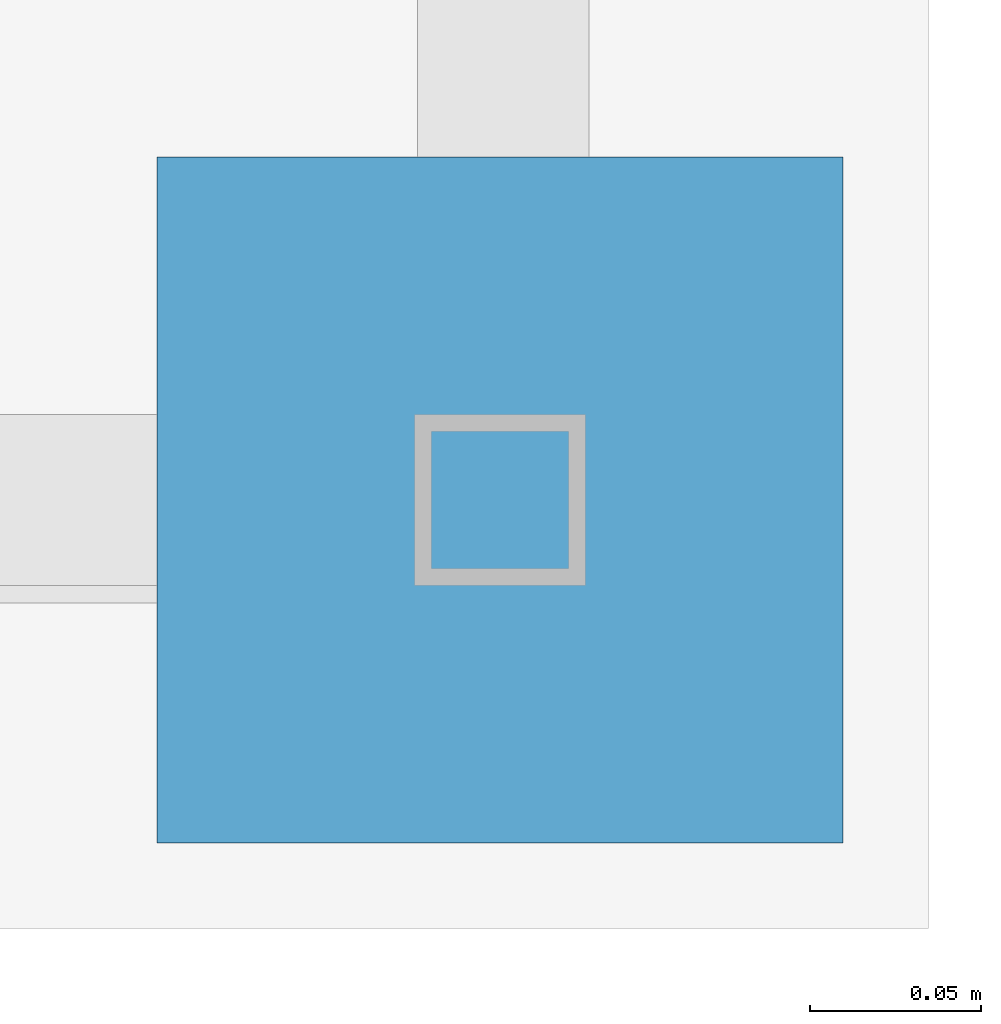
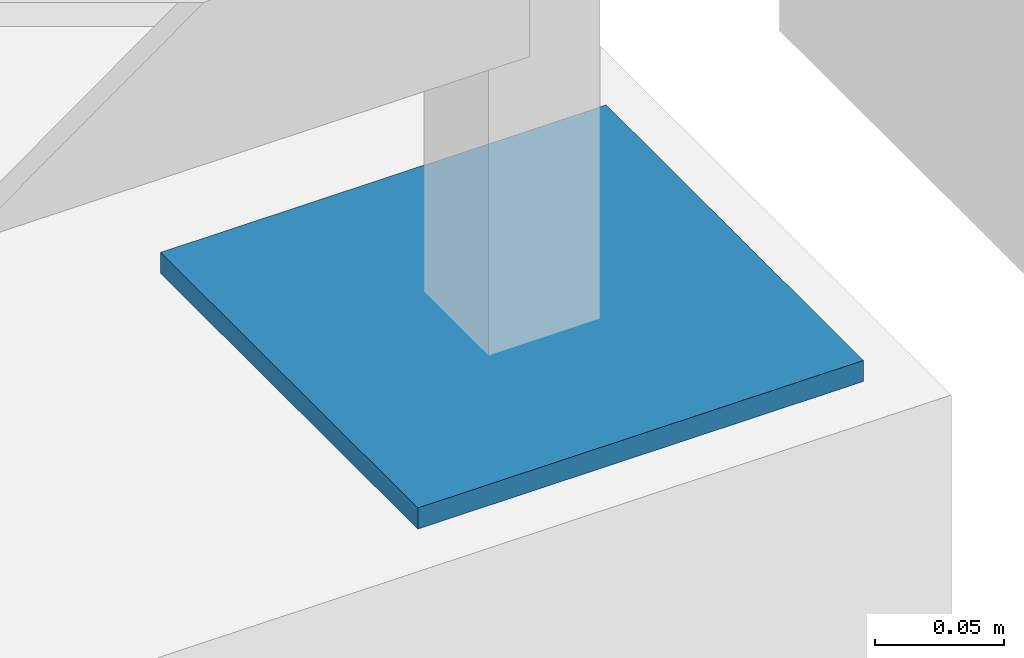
# One storey, part 62 of 418: 1 discrete accessory.
"""IFC2X3 building model written with IfcOpenShell, lengths in millimetres."""

from ifc_helpers import new_model, entity, si_unit, converted_unit, derived_unit, money_unit, direction, frame, origin_with_axes, place, context, subcontext, project, spatial, polyline, outline, extrude, material, type_object, element, save


model = new_model("IFC2X3")

# Units and contexts
model_context = context("Model", 3, precision=0.01, world=origin_with_axes(), true_north=direction((0.0, 1.0)))
body_context = subcontext(model_context, "Body", "Model", "MODEL_VIEW")
ifc_project = project(units=[si_unit("LENGTHUNIT", "METRE", prefix="MILLI"), si_unit("AREAUNIT", "SQUARE_METRE"), si_unit("VOLUMEUNIT", "CUBIC_METRE"), converted_unit("PLANEANGLEUNIT", "DEGREE", entity("IfcPlaneAngleMeasure", 0.0174532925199), si_unit("PLANEANGLEUNIT", "RADIAN"), dimensions=[0, 0, 0, 0, 0, 0, 0]), si_unit("SOLIDANGLEUNIT", "STERADIAN"), money_unit("EUR"), converted_unit("TIMEUNIT", "Year", entity("IfcTimeMeasure", 31556926.0), si_unit("TIMEUNIT", "SECOND"), dimensions=[0, 0, 1, 0, 0, 0, 0]), si_unit("MASSUNIT", "GRAM", prefix="KILO"), si_unit("THERMODYNAMICTEMPERATUREUNIT", "DEGREE_CELSIUS"), si_unit("LUMINOUSINTENSITYUNIT", "LUMEN"), si_unit("ENERGYUNIT", "JOULE", prefix="MEGA"), derived_unit("THERMALCONDUCTANCEUNIT", [(si_unit("POWERUNIT", "WATT"), 1), (si_unit("LENGTHUNIT", "METRE"), -1), (si_unit("THERMODYNAMICTEMPERATUREUNIT", "KELVIN"), -1)]), derived_unit("SPECIFICHEATCAPACITYUNIT", [(si_unit("ENERGYUNIT", "JOULE"), 1), (si_unit("MASSUNIT", "GRAM", prefix="KILO"), -1), (si_unit("THERMODYNAMICTEMPERATUREUNIT", "KELVIN"), -1)]), derived_unit("MASSDENSITYUNIT", [(si_unit("MASSUNIT", "GRAM", prefix="KILO"), 1), (si_unit("VOLUMEUNIT", "CUBIC_METRE"), -1)])], contexts=[model_context])

# Site, building, storey
site_placement = place(None, origin_with_axes())
site = spatial("IfcSite", under=ifc_project, at=site_placement, Name="Paldiski mnt 245/1, Tallinn, Harjumaa", CompositionType="COMPLEX")
building_placement = place(site_placement, origin_with_axes())
building = spatial("IfcBuilding", under=site, at=building_placement, Name="RKAS Hoone üldnimetus (kasutust iseloomustav) -> IFC Project Manager -> SOLIBRI", CompositionType="ELEMENT")
storey_placement = place(building_placement, origin_with_axes())
storey = spatial("IfcBuildingStorey", under=building, at=storey_placement, Name="Esimene korrus", CompositionType="ELEMENT", Elevation=0.0)

# Discrete accessory
ifc_material = material(Name="Teras")
discrete_accessory_type = type_object("IfcDiscreteAccessoryType", Name="Teras 10")
discrete_accessory_placement = place(storey_placement, frame((-48630.4231231, -1630.71022117, -140.0), z_axis=(0.0, 0.0, 1.0), x_axis=(1.0, 0.0, 0.0)))
element("IfcDiscreteAccessory", 1, at=discrete_accessory_placement, inside=storey, type_object=discrete_accessory_type, material=ifc_material, Name="Kinnitus", context=body_context, shape_type="SweptSolid", body=[
    extrude(outline(polyline([(0.0, 0.0), (200.0, 0.0), (200.0, 200.0), (0.0, 200.0), (0.0, 0.0)])), frame((0.0, 0.0, -10.0), z_axis=(0.0, 0.0, 1.0), x_axis=(1.0, 0.0, 0.0)), (0.0, 0.0, 1.0), 10.0),
])

save(model, "model.ifc")
